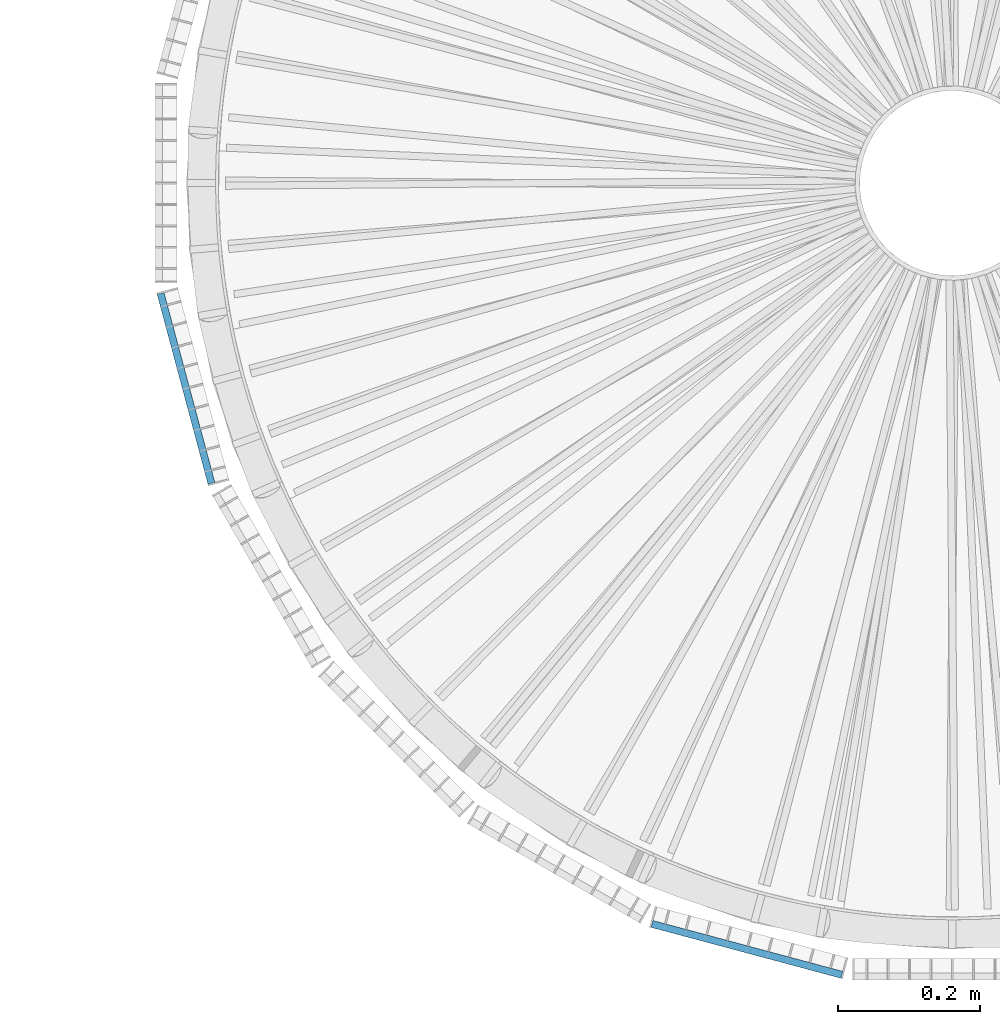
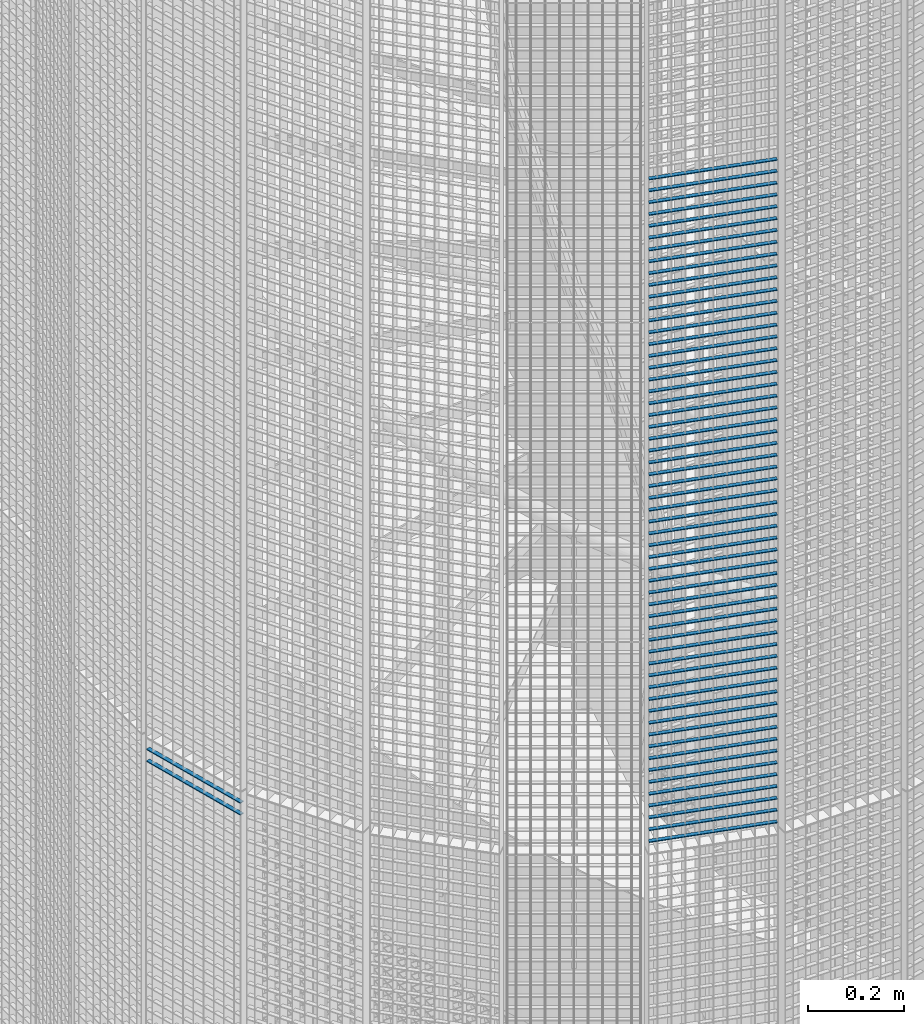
# One storey, part 361 of 1183: 59 beams, 2 elements without a shape of their own.
"""IFC2X3 building model written with IfcOpenShell, lengths in millimetres."""

from ifc_helpers import new_model, si_unit, frame, origin_with_axes, origin_2d_with_axis, place, context, subcontext, project, spatial, rectangle, extrude, material, type_object, element, aggregate, save


model = new_model("IFC2X3")

# Units and contexts
model_context = context("Model", 3, precision=1e-05, world=origin_with_axes())
body_context = subcontext(model_context, "Body", "Model", "MODEL_VIEW")
ifc_project = project(units=[si_unit("LENGTHUNIT", "METRE", prefix="MILLI"), si_unit("AREAUNIT", "SQUARE_METRE"), si_unit("VOLUMEUNIT", "CUBIC_METRE"), si_unit("MASSUNIT", "GRAM", prefix="KILO"), si_unit("TIMEUNIT", "SECOND"), si_unit("PLANEANGLEUNIT", "RADIAN"), si_unit("SOLIDANGLEUNIT", "STERADIAN"), si_unit("THERMODYNAMICTEMPERATUREUNIT", "DEGREE_CELSIUS"), si_unit("LUMINOUSINTENSITYUNIT", "LUMEN")], contexts=[model_context])

# Site, building, storey
site_placement = place(None, origin_with_axes())
site = spatial("IfcSite", under=ifc_project, at=site_placement, Name="Undefined", CompositionType="ELEMENT")
building_placement = place(site_placement, origin_with_axes())
building = spatial("IfcBuilding", under=site, at=building_placement, Name="Undefined", CompositionType="ELEMENT")
storey_placement = place(building_placement, origin_with_axes())
storey = spatial("IfcBuildingStorey", under=building, at=storey_placement, Name="Undefined", CompositionType="ELEMENT", Elevation=0.0)

# Assembly, beams
assembly_1_placement = place(storey_placement, origin_with_axes())
assembly_1 = element("IfcElementAssembly", 1, at=assembly_1_placement, inside=storey, Name="BORDURE", AssemblyPlace="NOTDEFINED", PredefinedType="NOTDEFINED")
ifc_material = material(Name="STEEL/S235JR")
beam_type = type_object("IfcBeamType", Name="PL2*10", PredefinedType="NOTDEFINED")
beam_1_placement = place(assembly_1_placement, frame((21445.1040732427, -1111.25508286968, 10710.0), z_axis=(-0.258819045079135, -0.965925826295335, 0.0), x_axis=(-0.965925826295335, 0.258819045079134, 0.0)))
beam_1 = element("IfcBeam", 2, at=beam_1_placement, type_object=beam_type, material=ifc_material, Name="ENTRETOISE", context=body_context, shape_type="SweptSolid", body=[
    extrude(rectangle(XDim=2.0, YDim=10.0, at=origin_2d_with_axis()), frame((275.999999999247, 9.09494701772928e-13, 1.53210777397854e-14), z_axis=(-1.0, 0.0, 0.0), x_axis=(0.0, -1.0, 0.0)), (0.0, 0.0, 1.0), 276.0),
])
beam_2_placement = place(assembly_1_placement, frame((21445.1040732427, -1111.25508286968, 10680.0), z_axis=(-0.258819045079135, -0.965925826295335, 0.0), x_axis=(-0.965925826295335, 0.258819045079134, 0.0)))
beam_2 = element("IfcBeam", 3, at=beam_2_placement, type_object=beam_type, material=ifc_material, Name="ENTRETOISE", context=body_context, shape_type="SweptSolid", body=[
    extrude(rectangle(XDim=2.0, YDim=10.0, at=origin_2d_with_axis()), frame((275.999999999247, 9.09494701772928e-13, 1.53210777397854e-14), z_axis=(-1.0, 0.0, 0.0), x_axis=(0.0, -1.0, 0.0)), (0.0, 0.0, 1.0), 276.0),
])
beam_3_placement = place(assembly_1_placement, frame((21445.1040732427, -1111.25508286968, 10650.0), z_axis=(-0.258819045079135, -0.965925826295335, 0.0), x_axis=(-0.965925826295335, 0.258819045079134, 0.0)))
beam_3 = element("IfcBeam", 4, at=beam_3_placement, type_object=beam_type, material=ifc_material, Name="ENTRETOISE", context=body_context, shape_type="SweptSolid", body=[
    extrude(rectangle(XDim=2.0, YDim=10.0, at=origin_2d_with_axis()), frame((275.999999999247, 9.09494701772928e-13, 1.53210777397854e-14), z_axis=(-1.0, 0.0, 0.0), x_axis=(0.0, -1.0, 0.0)), (0.0, 0.0, 1.0), 276.0),
])
beam_4_placement = place(assembly_1_placement, frame((21445.1040732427, -1111.25508286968, 10620.0), z_axis=(-0.258819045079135, -0.965925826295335, 0.0), x_axis=(-0.965925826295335, 0.258819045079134, 0.0)))
beam_4 = element("IfcBeam", 5, at=beam_4_placement, type_object=beam_type, material=ifc_material, Name="ENTRETOISE", context=body_context, shape_type="SweptSolid", body=[
    extrude(rectangle(XDim=2.0, YDim=10.0, at=origin_2d_with_axis()), frame((275.999999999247, 9.09494701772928e-13, 1.53210777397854e-14), z_axis=(-1.0, 0.0, 0.0), x_axis=(0.0, -1.0, 0.0)), (0.0, 0.0, 1.0), 276.0),
])
beam_5_placement = place(assembly_1_placement, frame((21445.1040732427, -1111.25508286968, 10590.0), z_axis=(-0.258819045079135, -0.965925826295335, 0.0), x_axis=(-0.965925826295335, 0.258819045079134, 0.0)))
beam_5 = element("IfcBeam", 6, at=beam_5_placement, type_object=beam_type, material=ifc_material, Name="ENTRETOISE", context=body_context, shape_type="SweptSolid", body=[
    extrude(rectangle(XDim=2.0, YDim=10.0, at=origin_2d_with_axis()), frame((275.999999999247, 9.09494701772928e-13, 1.53210777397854e-14), z_axis=(-1.0, 0.0, 0.0), x_axis=(0.0, -1.0, 0.0)), (0.0, 0.0, 1.0), 276.0),
])
beam_6_placement = place(assembly_1_placement, frame((21445.1040732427, -1111.25508286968, 10560.0), z_axis=(-0.258819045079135, -0.965925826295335, 0.0), x_axis=(-0.965925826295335, 0.258819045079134, 0.0)))
beam_6 = element("IfcBeam", 7, at=beam_6_placement, type_object=beam_type, material=ifc_material, Name="ENTRETOISE", context=body_context, shape_type="SweptSolid", body=[
    extrude(rectangle(XDim=2.0, YDim=10.0, at=origin_2d_with_axis()), frame((275.999999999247, 9.09494701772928e-13, 1.53210777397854e-14), z_axis=(-1.0, 0.0, 0.0), x_axis=(0.0, -1.0, 0.0)), (0.0, 0.0, 1.0), 276.0),
])
beam_7_placement = place(assembly_1_placement, frame((21445.1040732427, -1111.25508286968, 10530.0), z_axis=(-0.258819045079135, -0.965925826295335, 0.0), x_axis=(-0.965925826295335, 0.258819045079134, 0.0)))
beam_7 = element("IfcBeam", 8, at=beam_7_placement, type_object=beam_type, material=ifc_material, Name="ENTRETOISE", context=body_context, shape_type="SweptSolid", body=[
    extrude(rectangle(XDim=2.0, YDim=10.0, at=origin_2d_with_axis()), frame((275.999999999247, 9.09494701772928e-13, 1.53210777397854e-14), z_axis=(-1.0, 0.0, 0.0), x_axis=(0.0, -1.0, 0.0)), (0.0, 0.0, 1.0), 276.0),
])
beam_8_placement = place(assembly_1_placement, frame((21445.1040732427, -1111.25508286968, 10500.0), z_axis=(-0.258819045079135, -0.965925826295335, 0.0), x_axis=(-0.965925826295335, 0.258819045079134, 0.0)))
beam_8 = element("IfcBeam", 9, at=beam_8_placement, type_object=beam_type, material=ifc_material, Name="ENTRETOISE", context=body_context, shape_type="SweptSolid", body=[
    extrude(rectangle(XDim=2.0, YDim=10.0, at=origin_2d_with_axis()), frame((275.999999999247, 9.09494701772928e-13, 1.53210777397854e-14), z_axis=(-1.0, 0.0, 0.0), x_axis=(0.0, -1.0, 0.0)), (0.0, 0.0, 1.0), 276.0),
])
beam_9_placement = place(assembly_1_placement, frame((21445.1040732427, -1111.25508286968, 10470.0), z_axis=(-0.258819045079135, -0.965925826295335, 0.0), x_axis=(-0.965925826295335, 0.258819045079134, 0.0)))
beam_9 = element("IfcBeam", 10, at=beam_9_placement, type_object=beam_type, material=ifc_material, Name="ENTRETOISE", context=body_context, shape_type="SweptSolid", body=[
    extrude(rectangle(XDim=2.0, YDim=10.0, at=origin_2d_with_axis()), frame((275.999999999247, 9.09494701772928e-13, 1.53210777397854e-14), z_axis=(-1.0, 0.0, 0.0), x_axis=(0.0, -1.0, 0.0)), (0.0, 0.0, 1.0), 276.0),
])
beam_10_placement = place(assembly_1_placement, frame((21445.1040732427, -1111.25508286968, 10440.0), z_axis=(-0.258819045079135, -0.965925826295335, 0.0), x_axis=(-0.965925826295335, 0.258819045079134, 0.0)))
beam_10 = element("IfcBeam", 11, at=beam_10_placement, type_object=beam_type, material=ifc_material, Name="ENTRETOISE", context=body_context, shape_type="SweptSolid", body=[
    extrude(rectangle(XDim=2.0, YDim=10.0, at=origin_2d_with_axis()), frame((275.999999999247, 9.09494701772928e-13, 1.53210777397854e-14), z_axis=(-1.0, 0.0, 0.0), x_axis=(0.0, -1.0, 0.0)), (0.0, 0.0, 1.0), 276.0),
])
beam_11_placement = place(assembly_1_placement, frame((21445.1040732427, -1111.25508286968, 10410.0), z_axis=(-0.258819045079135, -0.965925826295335, 0.0), x_axis=(-0.965925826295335, 0.258819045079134, 0.0)))
beam_11 = element("IfcBeam", 12, at=beam_11_placement, type_object=beam_type, material=ifc_material, Name="ENTRETOISE", context=body_context, shape_type="SweptSolid", body=[
    extrude(rectangle(XDim=2.0, YDim=10.0, at=origin_2d_with_axis()), frame((275.999999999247, 9.09494701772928e-13, 1.53210777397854e-14), z_axis=(-1.0, 0.0, 0.0), x_axis=(0.0, -1.0, 0.0)), (0.0, 0.0, 1.0), 276.0),
])
beam_12_placement = place(assembly_1_placement, frame((21445.1040732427, -1111.25508286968, 10380.0), z_axis=(-0.258819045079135, -0.965925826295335, 0.0), x_axis=(-0.965925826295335, 0.258819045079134, 0.0)))
beam_12 = element("IfcBeam", 13, at=beam_12_placement, type_object=beam_type, material=ifc_material, Name="ENTRETOISE", context=body_context, shape_type="SweptSolid", body=[
    extrude(rectangle(XDim=2.0, YDim=10.0, at=origin_2d_with_axis()), frame((275.999999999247, 9.09494701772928e-13, 1.53210777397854e-14), z_axis=(-1.0, 0.0, 0.0), x_axis=(0.0, -1.0, 0.0)), (0.0, 0.0, 1.0), 276.0),
])
beam_13_placement = place(assembly_1_placement, frame((21445.1040732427, -1111.25508286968, 10350.0), z_axis=(-0.258819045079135, -0.965925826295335, 0.0), x_axis=(-0.965925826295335, 0.258819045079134, 0.0)))
beam_13 = element("IfcBeam", 14, at=beam_13_placement, type_object=beam_type, material=ifc_material, Name="ENTRETOISE", context=body_context, shape_type="SweptSolid", body=[
    extrude(rectangle(XDim=2.0, YDim=10.0, at=origin_2d_with_axis()), frame((275.999999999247, 9.09494701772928e-13, 1.53210777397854e-14), z_axis=(-1.0, 0.0, 0.0), x_axis=(0.0, -1.0, 0.0)), (0.0, 0.0, 1.0), 276.0),
])
beam_14_placement = place(assembly_1_placement, frame((21445.1040732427, -1111.25508286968, 10320.0), z_axis=(-0.258819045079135, -0.965925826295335, 0.0), x_axis=(-0.965925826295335, 0.258819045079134, 0.0)))
beam_14 = element("IfcBeam", 15, at=beam_14_placement, type_object=beam_type, material=ifc_material, Name="ENTRETOISE", context=body_context, shape_type="SweptSolid", body=[
    extrude(rectangle(XDim=2.0, YDim=10.0, at=origin_2d_with_axis()), frame((275.999999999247, 9.09494701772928e-13, 1.53210777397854e-14), z_axis=(-1.0, 0.0, 0.0), x_axis=(0.0, -1.0, 0.0)), (0.0, 0.0, 1.0), 276.0),
])
beam_15_placement = place(assembly_1_placement, frame((21445.1040732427, -1111.25508286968, 10290.0), z_axis=(-0.258819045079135, -0.965925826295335, 0.0), x_axis=(-0.965925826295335, 0.258819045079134, 0.0)))
beam_15 = element("IfcBeam", 16, at=beam_15_placement, type_object=beam_type, material=ifc_material, Name="ENTRETOISE", context=body_context, shape_type="SweptSolid", body=[
    extrude(rectangle(XDim=2.0, YDim=10.0, at=origin_2d_with_axis()), frame((275.999999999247, 9.09494701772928e-13, 1.53210777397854e-14), z_axis=(-1.0, 0.0, 0.0), x_axis=(0.0, -1.0, 0.0)), (0.0, 0.0, 1.0), 276.0),
])
beam_16_placement = place(assembly_1_placement, frame((21445.1040732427, -1111.25508286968, 10260.0), z_axis=(-0.258819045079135, -0.965925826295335, 0.0), x_axis=(-0.965925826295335, 0.258819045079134, 0.0)))
beam_16 = element("IfcBeam", 17, at=beam_16_placement, type_object=beam_type, material=ifc_material, Name="ENTRETOISE", context=body_context, shape_type="SweptSolid", body=[
    extrude(rectangle(XDim=2.0, YDim=10.0, at=origin_2d_with_axis()), frame((275.999999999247, 9.09494701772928e-13, 1.53210777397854e-14), z_axis=(-1.0, 0.0, 0.0), x_axis=(0.0, -1.0, 0.0)), (0.0, 0.0, 1.0), 276.0),
])
beam_17_placement = place(assembly_1_placement, frame((21445.1040732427, -1111.25508286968, 10230.0), z_axis=(-0.258819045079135, -0.965925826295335, 0.0), x_axis=(-0.965925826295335, 0.258819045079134, 0.0)))
beam_17 = element("IfcBeam", 18, at=beam_17_placement, type_object=beam_type, material=ifc_material, Name="ENTRETOISE", context=body_context, shape_type="SweptSolid", body=[
    extrude(rectangle(XDim=2.0, YDim=10.0, at=origin_2d_with_axis()), frame((275.999999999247, 9.09494701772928e-13, 1.53210777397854e-14), z_axis=(-1.0, 0.0, 0.0), x_axis=(0.0, -1.0, 0.0)), (0.0, 0.0, 1.0), 276.0),
])
beam_18_placement = place(assembly_1_placement, frame((21445.1040732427, -1111.25508286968, 10200.0), z_axis=(-0.258819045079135, -0.965925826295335, 0.0), x_axis=(-0.965925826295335, 0.258819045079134, 0.0)))
beam_18 = element("IfcBeam", 19, at=beam_18_placement, type_object=beam_type, material=ifc_material, Name="ENTRETOISE", context=body_context, shape_type="SweptSolid", body=[
    extrude(rectangle(XDim=2.0, YDim=10.0, at=origin_2d_with_axis()), frame((275.999999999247, 9.09494701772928e-13, 1.53210777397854e-14), z_axis=(-1.0, 0.0, 0.0), x_axis=(0.0, -1.0, 0.0)), (0.0, 0.0, 1.0), 276.0),
])
beam_19_placement = place(assembly_1_placement, frame((21445.1040732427, -1111.25508286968, 10170.0), z_axis=(-0.258819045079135, -0.965925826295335, 0.0), x_axis=(-0.965925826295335, 0.258819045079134, 0.0)))
beam_19 = element("IfcBeam", 20, at=beam_19_placement, type_object=beam_type, material=ifc_material, Name="ENTRETOISE", context=body_context, shape_type="SweptSolid", body=[
    extrude(rectangle(XDim=2.0, YDim=10.0, at=origin_2d_with_axis()), frame((275.999999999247, 9.09494701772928e-13, 1.53210777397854e-14), z_axis=(-1.0, 0.0, 0.0), x_axis=(0.0, -1.0, 0.0)), (0.0, 0.0, 1.0), 276.0),
])
beam_20_placement = place(assembly_1_placement, frame((21445.1040732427, -1111.25508286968, 10140.0), z_axis=(-0.258819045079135, -0.965925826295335, 0.0), x_axis=(-0.965925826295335, 0.258819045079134, 0.0)))
beam_20 = element("IfcBeam", 21, at=beam_20_placement, type_object=beam_type, material=ifc_material, Name="ENTRETOISE", context=body_context, shape_type="SweptSolid", body=[
    extrude(rectangle(XDim=2.0, YDim=10.0, at=origin_2d_with_axis()), frame((275.999999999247, 9.09494701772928e-13, 1.53210777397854e-14), z_axis=(-1.0, 0.0, 0.0), x_axis=(0.0, -1.0, 0.0)), (0.0, 0.0, 1.0), 276.0),
])
beam_21_placement = place(assembly_1_placement, frame((21445.1040732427, -1111.25508286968, 9720.0), z_axis=(-0.258819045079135, -0.965925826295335, 0.0), x_axis=(-0.965925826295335, 0.258819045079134, 0.0)))
beam_21 = element("IfcBeam", 22, at=beam_21_placement, type_object=beam_type, material=ifc_material, Name="ENTRETOISE", context=body_context, shape_type="SweptSolid", body=[
    extrude(rectangle(XDim=2.0, YDim=10.0, at=origin_2d_with_axis()), frame((275.999999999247, 9.09494701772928e-13, 1.53210777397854e-14), z_axis=(-1.0, 0.0, 0.0), x_axis=(0.0, -1.0, 0.0)), (0.0, 0.0, 1.0), 276.0),
])
beam_22_placement = place(assembly_1_placement, frame((21445.1040732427, -1111.25508286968, 9690.0), z_axis=(-0.258819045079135, -0.965925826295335, 0.0), x_axis=(-0.965925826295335, 0.258819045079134, 0.0)))
beam_22 = element("IfcBeam", 23, at=beam_22_placement, type_object=beam_type, material=ifc_material, Name="ENTRETOISE", context=body_context, shape_type="SweptSolid", body=[
    extrude(rectangle(XDim=2.0, YDim=10.0, at=origin_2d_with_axis()), frame((275.999999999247, 9.09494701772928e-13, 1.53210777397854e-14), z_axis=(-1.0, 0.0, 0.0), x_axis=(0.0, -1.0, 0.0)), (0.0, 0.0, 1.0), 276.0),
])
beam_23_placement = place(assembly_1_placement, frame((21445.1040732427, -1111.25508286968, 9750.0), z_axis=(-0.258819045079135, -0.965925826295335, 0.0), x_axis=(-0.965925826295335, 0.258819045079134, 0.0)))
beam_23 = element("IfcBeam", 24, at=beam_23_placement, type_object=beam_type, material=ifc_material, Name="ENTRETOISE", context=body_context, shape_type="SweptSolid", body=[
    extrude(rectangle(XDim=2.0, YDim=10.0, at=origin_2d_with_axis()), frame((275.999999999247, 9.09494701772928e-13, 1.53210777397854e-14), z_axis=(-1.0, 0.0, 0.0), x_axis=(0.0, -1.0, 0.0)), (0.0, 0.0, 1.0), 276.0),
])
beam_24_placement = place(assembly_1_placement, frame((21445.1040732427, -1111.25508286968, 9660.0), z_axis=(-0.258819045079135, -0.965925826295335, 0.0), x_axis=(-0.965925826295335, 0.258819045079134, 0.0)))
beam_24 = element("IfcBeam", 25, at=beam_24_placement, type_object=beam_type, material=ifc_material, Name="ENTRETOISE", context=body_context, shape_type="SweptSolid", body=[
    extrude(rectangle(XDim=2.0, YDim=10.0, at=origin_2d_with_axis()), frame((275.999999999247, 9.09494701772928e-13, 1.53210777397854e-14), z_axis=(-1.0, 0.0, 0.0), x_axis=(0.0, -1.0, 0.0)), (0.0, 0.0, 1.0), 276.0),
])
beam_25_placement = place(assembly_1_placement, frame((21445.1040732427, -1111.25508286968, 9630.0), z_axis=(-0.258819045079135, -0.965925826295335, 0.0), x_axis=(-0.965925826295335, 0.258819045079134, 0.0)))
beam_25 = element("IfcBeam", 26, at=beam_25_placement, type_object=beam_type, material=ifc_material, Name="ENTRETOISE", context=body_context, shape_type="SweptSolid", body=[
    extrude(rectangle(XDim=2.0, YDim=10.0, at=origin_2d_with_axis()), frame((275.999999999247, 9.09494701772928e-13, 1.53210777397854e-14), z_axis=(-1.0, 0.0, 0.0), x_axis=(0.0, -1.0, 0.0)), (0.0, 0.0, 1.0), 276.0),
])
beam_26_placement = place(assembly_1_placement, frame((21445.1040732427, -1111.25508286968, 9780.0), z_axis=(-0.258819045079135, -0.965925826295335, 0.0), x_axis=(-0.965925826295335, 0.258819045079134, 0.0)))
beam_26 = element("IfcBeam", 27, at=beam_26_placement, type_object=beam_type, material=ifc_material, Name="ENTRETOISE", context=body_context, shape_type="SweptSolid", body=[
    extrude(rectangle(XDim=2.0, YDim=10.0, at=origin_2d_with_axis()), frame((275.999999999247, 9.09494701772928e-13, 1.53210777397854e-14), z_axis=(-1.0, 0.0, 0.0), x_axis=(0.0, -1.0, 0.0)), (0.0, 0.0, 1.0), 276.0),
])
beam_27_placement = place(assembly_1_placement, frame((21445.1040732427, -1111.25508286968, 9600.0), z_axis=(-0.258819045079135, -0.965925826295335, 0.0), x_axis=(-0.965925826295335, 0.258819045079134, 0.0)))
beam_27 = element("IfcBeam", 28, at=beam_27_placement, type_object=beam_type, material=ifc_material, Name="ENTRETOISE", context=body_context, shape_type="SweptSolid", body=[
    extrude(rectangle(XDim=2.0, YDim=10.0, at=origin_2d_with_axis()), frame((275.999999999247, 9.09494701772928e-13, 1.53210777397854e-14), z_axis=(-1.0, 0.0, 0.0), x_axis=(0.0, -1.0, 0.0)), (0.0, 0.0, 1.0), 276.0),
])
beam_28_placement = place(assembly_1_placement, frame((21445.1040732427, -1111.25508286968, 9810.0), z_axis=(-0.258819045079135, -0.965925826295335, 0.0), x_axis=(-0.965925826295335, 0.258819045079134, 0.0)))
beam_28 = element("IfcBeam", 29, at=beam_28_placement, type_object=beam_type, material=ifc_material, Name="ENTRETOISE", context=body_context, shape_type="SweptSolid", body=[
    extrude(rectangle(XDim=2.0, YDim=10.0, at=origin_2d_with_axis()), frame((275.999999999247, 9.09494701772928e-13, 1.53210777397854e-14), z_axis=(-1.0, 0.0, 0.0), x_axis=(0.0, -1.0, 0.0)), (0.0, 0.0, 1.0), 276.0),
])
beam_29_placement = place(assembly_1_placement, frame((21445.1040732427, -1111.25508286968, 9570.0), z_axis=(-0.258819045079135, -0.965925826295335, 0.0), x_axis=(-0.965925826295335, 0.258819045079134, 0.0)))
beam_29 = element("IfcBeam", 30, at=beam_29_placement, type_object=beam_type, material=ifc_material, Name="ENTRETOISE", context=body_context, shape_type="SweptSolid", body=[
    extrude(rectangle(XDim=2.0, YDim=10.0, at=origin_2d_with_axis()), frame((275.999999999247, 9.09494701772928e-13, 1.53210777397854e-14), z_axis=(-1.0, 0.0, 0.0), x_axis=(0.0, -1.0, 0.0)), (0.0, 0.0, 1.0), 276.0),
])
beam_30_placement = place(assembly_1_placement, frame((21445.1040732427, -1111.25508286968, 9540.0), z_axis=(-0.258819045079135, -0.965925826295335, 0.0), x_axis=(-0.965925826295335, 0.258819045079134, 0.0)))
beam_30 = element("IfcBeam", 31, at=beam_30_placement, type_object=beam_type, material=ifc_material, Name="ENTRETOISE", context=body_context, shape_type="SweptSolid", body=[
    extrude(rectangle(XDim=2.0, YDim=10.0, at=origin_2d_with_axis()), frame((275.999999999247, 9.09494701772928e-13, 1.53210777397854e-14), z_axis=(-1.0, 0.0, 0.0), x_axis=(0.0, -1.0, 0.0)), (0.0, 0.0, 1.0), 276.0),
])
beam_31_placement = place(assembly_1_placement, frame((21445.1040732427, -1111.25508286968, 9840.0), z_axis=(-0.258819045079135, -0.965925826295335, 0.0), x_axis=(-0.965925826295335, 0.258819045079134, 0.0)))
beam_31 = element("IfcBeam", 32, at=beam_31_placement, type_object=beam_type, material=ifc_material, Name="ENTRETOISE", context=body_context, shape_type="SweptSolid", body=[
    extrude(rectangle(XDim=2.0, YDim=10.0, at=origin_2d_with_axis()), frame((275.999999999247, 9.09494701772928e-13, 1.53210777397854e-14), z_axis=(-1.0, 0.0, 0.0), x_axis=(0.0, -1.0, 0.0)), (0.0, 0.0, 1.0), 276.0),
])
beam_32_placement = place(assembly_1_placement, frame((21445.1040732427, -1111.25508286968, 9510.0), z_axis=(-0.258819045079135, -0.965925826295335, 0.0), x_axis=(-0.965925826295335, 0.258819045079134, 0.0)))
beam_32 = element("IfcBeam", 33, at=beam_32_placement, type_object=beam_type, material=ifc_material, Name="ENTRETOISE", context=body_context, shape_type="SweptSolid", body=[
    extrude(rectangle(XDim=2.0, YDim=10.0, at=origin_2d_with_axis()), frame((275.999999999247, 9.09494701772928e-13, 1.53210777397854e-14), z_axis=(-1.0, 0.0, 0.0), x_axis=(0.0, -1.0, 0.0)), (0.0, 0.0, 1.0), 276.0),
])
beam_33_placement = place(assembly_1_placement, frame((21445.1040732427, -1111.25508286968, 9480.0), z_axis=(-0.258819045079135, -0.965925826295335, 0.0), x_axis=(-0.965925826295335, 0.258819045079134, 0.0)))
beam_33 = element("IfcBeam", 34, at=beam_33_placement, type_object=beam_type, material=ifc_material, Name="ENTRETOISE", context=body_context, shape_type="SweptSolid", body=[
    extrude(rectangle(XDim=2.0, YDim=10.0, at=origin_2d_with_axis()), frame((275.999999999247, 9.09494701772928e-13, 1.53210777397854e-14), z_axis=(-1.0, 0.0, 0.0), x_axis=(0.0, -1.0, 0.0)), (0.0, 0.0, 1.0), 276.0),
])
beam_34_placement = place(assembly_1_placement, frame((21445.1040732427, -1111.25508286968, 9870.0), z_axis=(-0.258819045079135, -0.965925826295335, 0.0), x_axis=(-0.965925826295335, 0.258819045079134, 0.0)))
beam_34 = element("IfcBeam", 35, at=beam_34_placement, type_object=beam_type, material=ifc_material, Name="ENTRETOISE", context=body_context, shape_type="SweptSolid", body=[
    extrude(rectangle(XDim=2.0, YDim=10.0, at=origin_2d_with_axis()), frame((275.999999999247, 9.09494701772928e-13, 1.53210777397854e-14), z_axis=(-1.0, 0.0, 0.0), x_axis=(0.0, -1.0, 0.0)), (0.0, 0.0, 1.0), 276.0),
])
beam_35_placement = place(assembly_1_placement, frame((21445.1040732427, -1111.25508286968, 9450.0), z_axis=(-0.258819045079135, -0.965925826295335, 0.0), x_axis=(-0.965925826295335, 0.258819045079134, 0.0)))
beam_35 = element("IfcBeam", 36, at=beam_35_placement, type_object=beam_type, material=ifc_material, Name="ENTRETOISE", context=body_context, shape_type="SweptSolid", body=[
    extrude(rectangle(XDim=2.0, YDim=10.0, at=origin_2d_with_axis()), frame((275.999999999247, 9.09494701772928e-13, 1.53210777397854e-14), z_axis=(-1.0, 0.0, 0.0), x_axis=(0.0, -1.0, 0.0)), (0.0, 0.0, 1.0), 276.0),
])
beam_36_placement = place(assembly_1_placement, frame((21445.1040732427, -1111.25508286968, 9420.0), z_axis=(-0.258819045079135, -0.965925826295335, 0.0), x_axis=(-0.965925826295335, 0.258819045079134, 0.0)))
beam_36 = element("IfcBeam", 37, at=beam_36_placement, type_object=beam_type, material=ifc_material, Name="ENTRETOISE", context=body_context, shape_type="SweptSolid", body=[
    extrude(rectangle(XDim=2.0, YDim=10.0, at=origin_2d_with_axis()), frame((275.999999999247, 9.09494701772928e-13, 1.53210777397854e-14), z_axis=(-1.0, 0.0, 0.0), x_axis=(0.0, -1.0, 0.0)), (0.0, 0.0, 1.0), 276.0),
])
beam_37_placement = place(assembly_1_placement, frame((21445.1040732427, -1111.25508286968, 9900.0), z_axis=(-0.258819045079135, -0.965925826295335, 0.0), x_axis=(-0.965925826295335, 0.258819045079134, 0.0)))
beam_37 = element("IfcBeam", 38, at=beam_37_placement, type_object=beam_type, material=ifc_material, Name="ENTRETOISE", context=body_context, shape_type="SweptSolid", body=[
    extrude(rectangle(XDim=2.0, YDim=10.0, at=origin_2d_with_axis()), frame((275.999999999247, 9.09494701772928e-13, 1.53210777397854e-14), z_axis=(-1.0, 0.0, 0.0), x_axis=(0.0, -1.0, 0.0)), (0.0, 0.0, 1.0), 276.0),
])
beam_38_placement = place(assembly_1_placement, frame((21445.1040732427, -1111.25508286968, 9390.0), z_axis=(-0.258819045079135, -0.965925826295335, 0.0), x_axis=(-0.965925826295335, 0.258819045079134, 0.0)))
beam_38 = element("IfcBeam", 39, at=beam_38_placement, type_object=beam_type, material=ifc_material, Name="ENTRETOISE", context=body_context, shape_type="SweptSolid", body=[
    extrude(rectangle(XDim=2.0, YDim=10.0, at=origin_2d_with_axis()), frame((275.999999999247, 9.09494701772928e-13, 1.53210777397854e-14), z_axis=(-1.0, 0.0, 0.0), x_axis=(0.0, -1.0, 0.0)), (0.0, 0.0, 1.0), 276.0),
])
beam_39_placement = place(assembly_1_placement, frame((21445.1040732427, -1111.25508286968, 9930.0), z_axis=(-0.258819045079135, -0.965925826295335, 0.0), x_axis=(-0.965925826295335, 0.258819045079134, 0.0)))
beam_39 = element("IfcBeam", 40, at=beam_39_placement, type_object=beam_type, material=ifc_material, Name="ENTRETOISE", context=body_context, shape_type="SweptSolid", body=[
    extrude(rectangle(XDim=2.0, YDim=10.0, at=origin_2d_with_axis()), frame((275.999999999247, 9.09494701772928e-13, 1.53210777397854e-14), z_axis=(-1.0, 0.0, 0.0), x_axis=(0.0, -1.0, 0.0)), (0.0, 0.0, 1.0), 276.0),
])
beam_40_placement = place(assembly_1_placement, frame((21445.1040732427, -1111.25508286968, 9360.0), z_axis=(-0.258819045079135, -0.965925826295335, 0.0), x_axis=(-0.965925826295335, 0.258819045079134, 0.0)))
beam_40 = element("IfcBeam", 41, at=beam_40_placement, type_object=beam_type, material=ifc_material, Name="ENTRETOISE", context=body_context, shape_type="SweptSolid", body=[
    extrude(rectangle(XDim=2.0, YDim=10.0, at=origin_2d_with_axis()), frame((275.999999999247, 9.09494701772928e-13, 1.53210777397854e-14), z_axis=(-1.0, 0.0, 0.0), x_axis=(0.0, -1.0, 0.0)), (0.0, 0.0, 1.0), 276.0),
])
beam_41_placement = place(assembly_1_placement, frame((21445.1040732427, -1111.25508286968, 9330.0), z_axis=(-0.258819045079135, -0.965925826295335, 0.0), x_axis=(-0.965925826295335, 0.258819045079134, 0.0)))
beam_41 = element("IfcBeam", 42, at=beam_41_placement, type_object=beam_type, material=ifc_material, Name="ENTRETOISE", context=body_context, shape_type="SweptSolid", body=[
    extrude(rectangle(XDim=2.0, YDim=10.0, at=origin_2d_with_axis()), frame((275.999999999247, 9.09494701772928e-13, 1.53210777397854e-14), z_axis=(-1.0, 0.0, 0.0), x_axis=(0.0, -1.0, 0.0)), (0.0, 0.0, 1.0), 276.0),
])
beam_42_placement = place(assembly_1_placement, frame((21445.1040732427, -1111.25508286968, 9960.0), z_axis=(-0.258819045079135, -0.965925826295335, 0.0), x_axis=(-0.965925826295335, 0.258819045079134, 0.0)))
beam_42 = element("IfcBeam", 43, at=beam_42_placement, type_object=beam_type, material=ifc_material, Name="ENTRETOISE", context=body_context, shape_type="SweptSolid", body=[
    extrude(rectangle(XDim=2.0, YDim=10.0, at=origin_2d_with_axis()), frame((275.999999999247, 9.09494701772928e-13, 1.53210777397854e-14), z_axis=(-1.0, 0.0, 0.0), x_axis=(0.0, -1.0, 0.0)), (0.0, 0.0, 1.0), 276.0),
])
beam_43_placement = place(assembly_1_placement, frame((21445.1040732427, -1111.25508286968, 9300.0), z_axis=(-0.258819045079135, -0.965925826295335, 0.0), x_axis=(-0.965925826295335, 0.258819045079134, 0.0)))
beam_43 = element("IfcBeam", 44, at=beam_43_placement, type_object=beam_type, material=ifc_material, Name="ENTRETOISE", context=body_context, shape_type="SweptSolid", body=[
    extrude(rectangle(XDim=2.0, YDim=10.0, at=origin_2d_with_axis()), frame((275.999999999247, 9.09494701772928e-13, 1.53210777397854e-14), z_axis=(-1.0, 0.0, 0.0), x_axis=(0.0, -1.0, 0.0)), (0.0, 0.0, 1.0), 276.0),
])
beam_44_placement = place(assembly_1_placement, frame((21445.1040732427, -1111.25508286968, 9270.0), z_axis=(-0.258819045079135, -0.965925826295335, 0.0), x_axis=(-0.965925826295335, 0.258819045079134, 0.0)))
beam_44 = element("IfcBeam", 45, at=beam_44_placement, type_object=beam_type, material=ifc_material, Name="ENTRETOISE", context=body_context, shape_type="SweptSolid", body=[
    extrude(rectangle(XDim=2.0, YDim=10.0, at=origin_2d_with_axis()), frame((275.999999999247, 9.09494701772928e-13, 1.53210777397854e-14), z_axis=(-1.0, 0.0, 0.0), x_axis=(0.0, -1.0, 0.0)), (0.0, 0.0, 1.0), 276.0),
])
beam_45_placement = place(assembly_1_placement, frame((21445.1040732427, -1111.25508286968, 9990.0), z_axis=(-0.258819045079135, -0.965925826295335, 0.0), x_axis=(-0.965925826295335, 0.258819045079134, 0.0)))
beam_45 = element("IfcBeam", 46, at=beam_45_placement, type_object=beam_type, material=ifc_material, Name="ENTRETOISE", context=body_context, shape_type="SweptSolid", body=[
    extrude(rectangle(XDim=2.0, YDim=10.0, at=origin_2d_with_axis()), frame((275.999999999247, 9.09494701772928e-13, 1.53210777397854e-14), z_axis=(-1.0, 0.0, 0.0), x_axis=(0.0, -1.0, 0.0)), (0.0, 0.0, 1.0), 276.0),
])
beam_46_placement = place(assembly_1_placement, frame((21445.1040732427, -1111.25508286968, 9240.0), z_axis=(-0.258819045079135, -0.965925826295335, 0.0), x_axis=(-0.965925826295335, 0.258819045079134, 0.0)))
beam_46 = element("IfcBeam", 47, at=beam_46_placement, type_object=beam_type, material=ifc_material, Name="ENTRETOISE", context=body_context, shape_type="SweptSolid", body=[
    extrude(rectangle(XDim=2.0, YDim=10.0, at=origin_2d_with_axis()), frame((275.999999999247, 9.09494701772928e-13, 1.53210777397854e-14), z_axis=(-1.0, 0.0, 0.0), x_axis=(0.0, -1.0, 0.0)), (0.0, 0.0, 1.0), 276.0),
])
beam_47_placement = place(assembly_1_placement, frame((21445.1040732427, -1111.25508286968, 10020.0), z_axis=(-0.258819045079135, -0.965925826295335, 0.0), x_axis=(-0.965925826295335, 0.258819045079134, 0.0)))
beam_47 = element("IfcBeam", 48, at=beam_47_placement, type_object=beam_type, material=ifc_material, Name="ENTRETOISE", context=body_context, shape_type="SweptSolid", body=[
    extrude(rectangle(XDim=2.0, YDim=10.0, at=origin_2d_with_axis()), frame((275.999999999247, 9.09494701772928e-13, 1.53210777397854e-14), z_axis=(-1.0, 0.0, 0.0), x_axis=(0.0, -1.0, 0.0)), (0.0, 0.0, 1.0), 276.0),
])
beam_48_placement = place(assembly_1_placement, frame((21445.1040732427, -1111.25508286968, 9210.0), z_axis=(-0.258819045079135, -0.965925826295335, 0.0), x_axis=(-0.965925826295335, 0.258819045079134, 0.0)))
beam_48 = element("IfcBeam", 49, at=beam_48_placement, type_object=beam_type, material=ifc_material, Name="ENTRETOISE", context=body_context, shape_type="SweptSolid", body=[
    extrude(rectangle(XDim=2.0, YDim=10.0, at=origin_2d_with_axis()), frame((275.999999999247, 9.09494701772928e-13, 1.53210777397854e-14), z_axis=(-1.0, 0.0, 0.0), x_axis=(0.0, -1.0, 0.0)), (0.0, 0.0, 1.0), 276.0),
])
beam_49_placement = place(assembly_1_placement, frame((21445.1040732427, -1111.25508286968, 9180.0), z_axis=(-0.258819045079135, -0.965925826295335, 0.0), x_axis=(-0.965925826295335, 0.258819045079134, 0.0)))
beam_49 = element("IfcBeam", 50, at=beam_49_placement, type_object=beam_type, material=ifc_material, Name="ENTRETOISE", context=body_context, shape_type="SweptSolid", body=[
    extrude(rectangle(XDim=2.0, YDim=10.0, at=origin_2d_with_axis()), frame((275.999999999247, 9.09494701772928e-13, 1.53210777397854e-14), z_axis=(-1.0, 0.0, 0.0), x_axis=(0.0, -1.0, 0.0)), (0.0, 0.0, 1.0), 276.0),
])
beam_50_placement = place(assembly_1_placement, frame((21445.1040732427, -1111.25508286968, 10050.0), z_axis=(-0.258819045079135, -0.965925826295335, 0.0), x_axis=(-0.965925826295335, 0.258819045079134, 0.0)))
beam_50 = element("IfcBeam", 51, at=beam_50_placement, type_object=beam_type, material=ifc_material, Name="ENTRETOISE", context=body_context, shape_type="SweptSolid", body=[
    extrude(rectangle(XDim=2.0, YDim=10.0, at=origin_2d_with_axis()), frame((275.999999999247, 9.09494701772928e-13, 1.53210777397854e-14), z_axis=(-1.0, 0.0, 0.0), x_axis=(0.0, -1.0, 0.0)), (0.0, 0.0, 1.0), 276.0),
])
beam_51_placement = place(assembly_1_placement, frame((21445.1040732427, -1111.25508286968, 9150.0), z_axis=(-0.258819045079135, -0.965925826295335, 0.0), x_axis=(-0.965925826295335, 0.258819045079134, 0.0)))
beam_51 = element("IfcBeam", 52, at=beam_51_placement, type_object=beam_type, material=ifc_material, Name="ENTRETOISE", context=body_context, shape_type="SweptSolid", body=[
    extrude(rectangle(XDim=2.0, YDim=10.0, at=origin_2d_with_axis()), frame((275.999999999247, 9.09494701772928e-13, 1.53210777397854e-14), z_axis=(-1.0, 0.0, 0.0), x_axis=(0.0, -1.0, 0.0)), (0.0, 0.0, 1.0), 276.0),
])
beam_52_placement = place(assembly_1_placement, frame((21445.1040732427, -1111.25508286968, 9120.0), z_axis=(-0.258819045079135, -0.965925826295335, 0.0), x_axis=(-0.965925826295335, 0.258819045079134, 0.0)))
beam_52 = element("IfcBeam", 53, at=beam_52_placement, type_object=beam_type, material=ifc_material, Name="ENTRETOISE", context=body_context, shape_type="SweptSolid", body=[
    extrude(rectangle(XDim=2.0, YDim=10.0, at=origin_2d_with_axis()), frame((275.999999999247, 9.09494701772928e-13, 1.53210777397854e-14), z_axis=(-1.0, 0.0, 0.0), x_axis=(0.0, -1.0, 0.0)), (0.0, 0.0, 1.0), 276.0),
])
beam_53_placement = place(assembly_1_placement, frame((21445.1040732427, -1111.25508286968, 10080.0), z_axis=(-0.258819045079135, -0.965925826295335, 0.0), x_axis=(-0.965925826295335, 0.258819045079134, 0.0)))
beam_53 = element("IfcBeam", 54, at=beam_53_placement, type_object=beam_type, material=ifc_material, Name="ENTRETOISE", context=body_context, shape_type="SweptSolid", body=[
    extrude(rectangle(XDim=2.0, YDim=10.0, at=origin_2d_with_axis()), frame((275.999999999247, 9.09494701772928e-13, 1.53210777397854e-14), z_axis=(-1.0, 0.0, 0.0), x_axis=(0.0, -1.0, 0.0)), (0.0, 0.0, 1.0), 276.0),
])
beam_54_placement = place(assembly_1_placement, frame((21445.1040732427, -1111.25508286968, 9090.0), z_axis=(-0.258819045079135, -0.965925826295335, 0.0), x_axis=(-0.965925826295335, 0.258819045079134, 0.0)))
beam_54 = element("IfcBeam", 55, at=beam_54_placement, type_object=beam_type, material=ifc_material, Name="ENTRETOISE", context=body_context, shape_type="SweptSolid", body=[
    extrude(rectangle(XDim=2.0, YDim=10.0, at=origin_2d_with_axis()), frame((275.999999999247, 9.09494701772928e-13, 1.53210777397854e-14), z_axis=(-1.0, 0.0, 0.0), x_axis=(0.0, -1.0, 0.0)), (0.0, 0.0, 1.0), 276.0),
])
beam_55_placement = place(assembly_1_placement, frame((21445.1040732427, -1111.25508286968, 9060.0), z_axis=(-0.258819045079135, -0.965925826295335, 0.0), x_axis=(-0.965925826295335, 0.258819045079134, 0.0)))
beam_55 = element("IfcBeam", 56, at=beam_55_placement, type_object=beam_type, material=ifc_material, Name="ENTRETOISE", context=body_context, shape_type="SweptSolid", body=[
    extrude(rectangle(XDim=2.0, YDim=10.0, at=origin_2d_with_axis()), frame((275.999999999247, 9.09494701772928e-13, 1.53210777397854e-14), z_axis=(-1.0, 0.0, 0.0), x_axis=(0.0, -1.0, 0.0)), (0.0, 0.0, 1.0), 276.0),
])
beam_56_placement = place(assembly_1_placement, frame((21445.1040732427, -1111.25508286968, 10110.0), z_axis=(-0.258819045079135, -0.965925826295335, 0.0), x_axis=(-0.965925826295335, 0.258819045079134, 0.0)))
beam_56 = element("IfcBeam", 57, at=beam_56_placement, type_object=beam_type, material=ifc_material, Name="ENTRETOISE", context=body_context, shape_type="SweptSolid", body=[
    extrude(rectangle(XDim=2.0, YDim=10.0, at=origin_2d_with_axis()), frame((275.999999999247, 9.09494701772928e-13, 1.53210777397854e-14), z_axis=(-1.0, 0.0, 0.0), x_axis=(0.0, -1.0, 0.0)), (0.0, 0.0, 1.0), 276.0),
])
beam_57_placement = place(assembly_1_placement, frame((21445.1040732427, -1111.25508286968, 9030.0), z_axis=(-0.258819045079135, -0.965925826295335, 0.0), x_axis=(-0.965925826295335, 0.258819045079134, 0.0)))
beam_57 = element("IfcBeam", 58, at=beam_57_placement, type_object=beam_type, material=ifc_material, Name="ENTRETOISE", context=body_context, shape_type="SweptSolid", body=[
    extrude(rectangle(XDim=2.0, YDim=10.0, at=origin_2d_with_axis()), frame((275.999999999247, 9.09494701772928e-13, 1.53210777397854e-14), z_axis=(-1.0, 0.0, 0.0), x_axis=(0.0, -1.0, 0.0)), (0.0, 0.0, 1.0), 276.0),
])
aggregate(assembly_1, [beam_1, beam_2, beam_3, beam_4, beam_5, beam_6, beam_7, beam_8, beam_9, beam_10, beam_11, beam_12, beam_13, beam_14, beam_15, beam_16, beam_17, beam_18, beam_19, beam_20, beam_21, beam_22, beam_23, beam_24, beam_25, beam_26, beam_27, beam_28, beam_29, beam_30, beam_31, beam_32, beam_33, beam_34, beam_35, beam_36, beam_37, beam_38, beam_39, beam_40, beam_41, beam_42, beam_43, beam_44, beam_45, beam_46, beam_47, beam_48, beam_49, beam_50, beam_51, beam_52, beam_53, beam_54, beam_55, beam_56, beam_57])

assembly_2_placement = place(storey_placement, origin_with_axes())
assembly_2 = element("IfcElementAssembly", 59, at=assembly_2_placement, inside=storey, Name="BORDURE", AssemblyPlace="NOTDEFINED", PredefinedType="NOTDEFINED")
beam_58_placement = place(assembly_2_placement, frame((20560.1769047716, -421.483733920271, 8970.0), z_axis=(-0.965925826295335, -0.258819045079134, 0.0), x_axis=(-0.258819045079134, 0.965925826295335, 0.0)))
beam_58 = element("IfcBeam", 60, at=beam_58_placement, type_object=beam_type, material=ifc_material, Name="ENTRETOISE", context=body_context, shape_type="SweptSolid", body=[
    extrude(rectangle(XDim=2.0, YDim=10.0, at=origin_2d_with_axis()), frame((275.999999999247, 9.09494701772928e-13, 1.53210777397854e-14), z_axis=(-1.0, 0.0, 0.0), x_axis=(0.0, -1.0, 0.0)), (0.0, 0.0, 1.0), 276.0),
])
beam_59_placement = place(assembly_2_placement, frame((20560.1769047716, -421.483733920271, 8940.0), z_axis=(-0.965925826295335, -0.258819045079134, 0.0), x_axis=(-0.258819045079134, 0.965925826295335, 0.0)))
beam_59 = element("IfcBeam", 61, at=beam_59_placement, type_object=beam_type, material=ifc_material, Name="ENTRETOISE", context=body_context, shape_type="SweptSolid", body=[
    extrude(rectangle(XDim=2.0, YDim=10.0, at=origin_2d_with_axis()), frame((275.999999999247, 9.09494701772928e-13, 1.53210777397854e-14), z_axis=(-1.0, 0.0, 0.0), x_axis=(0.0, -1.0, 0.0)), (0.0, 0.0, 1.0), 276.0),
])
aggregate(assembly_2, [beam_58, beam_59])

save(model, "model.ifc")
